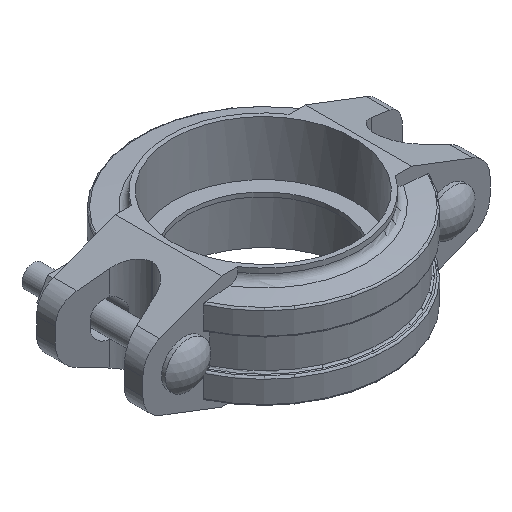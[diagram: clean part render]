
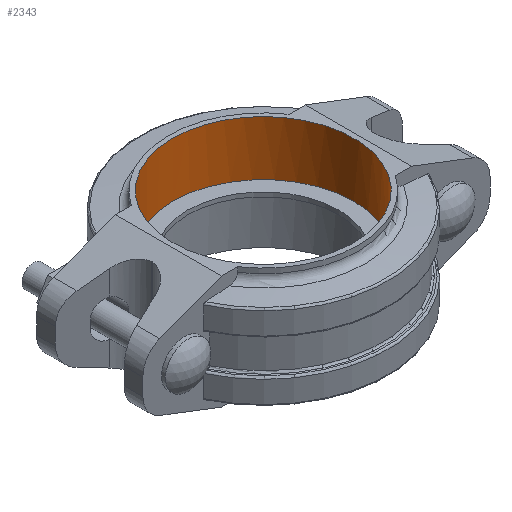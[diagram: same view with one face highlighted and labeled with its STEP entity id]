
A CAD part, isometric view. The second image highlights one B-rep face of the part: STEP entity #2343.
In plain terms, the highlighted cylindrical face has radius 38.1 mm (diameter 76.2 mm), a full revolution.
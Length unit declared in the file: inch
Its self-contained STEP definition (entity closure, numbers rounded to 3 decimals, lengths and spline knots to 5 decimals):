
#212=FACE_OUTER_BOUND('',#331,.T.);
#331=EDGE_LOOP('',(#1502,#1503,#1504,#1505,#1506,#1507));
#458=LINE('',#3413,#641);
#641=VECTOR('',#2744,1.5);
#827=CIRCLE('',#2484,1.5);
#828=CIRCLE('',#2485,1.5);
#829=CIRCLE('',#2487,1.5);
#830=CIRCLE('',#2488,1.5);
#917=VERTEX_POINT('',#3407);
#918=VERTEX_POINT('',#3408);
#919=VERTEX_POINT('',#3412);
#920=VERTEX_POINT('',#3414);
#1152=EDGE_CURVE('',#917,#918,#827,.T.);
#1153=EDGE_CURVE('',#918,#917,#828,.T.);
#1154=EDGE_CURVE('',#918,#919,#458,.T.);
#1155=EDGE_CURVE('',#920,#919,#829,.T.);
#1156=EDGE_CURVE('',#919,#920,#830,.T.);
#1502=ORIENTED_EDGE('',*,*,#1152,.T.);
#1503=ORIENTED_EDGE('',*,*,#1154,.T.);
#1504=ORIENTED_EDGE('',*,*,#1155,.F.);
#1505=ORIENTED_EDGE('',*,*,#1156,.F.);
#1506=ORIENTED_EDGE('',*,*,#1154,.F.);
#1507=ORIENTED_EDGE('',*,*,#1153,.T.);
#2183=CYLINDRICAL_SURFACE('',#2486,1.5);
#2343=ADVANCED_FACE('',(#212),#2183,.F.);
#2484=AXIS2_PLACEMENT_3D('',#3409,#2738,#2739);
#2485=AXIS2_PLACEMENT_3D('',#3410,#2740,#2741);
#2486=AXIS2_PLACEMENT_3D('',#3411,#2742,#2743);
#2487=AXIS2_PLACEMENT_3D('',#3415,#2745,#2746);
#2488=AXIS2_PLACEMENT_3D('',#3416,#2747,#2748);
#2738=DIRECTION('center_axis',(0.,0.,-1.));
#2739=DIRECTION('ref_axis',(0.,-1.,0.));
#2740=DIRECTION('center_axis',(0.,0.,-1.));
#2741=DIRECTION('ref_axis',(0.,-1.,0.));
#2742=DIRECTION('center_axis',(0.,0.,-1.));
#2743=DIRECTION('ref_axis',(0.,-1.,0.));
#2744=DIRECTION('',(0.,0.,1.));
#2745=DIRECTION('center_axis',(0.,0.,-1.));
#2746=DIRECTION('ref_axis',(-1.,0.,0.));
#2747=DIRECTION('center_axis',(0.,0.,-1.));
#2748=DIRECTION('ref_axis',(-1.,0.,0.));
#3407=CARTESIAN_POINT('',(-1.5,0.,0.035));
#3408=CARTESIAN_POINT('',(0.,1.5,0.035));
#3409=CARTESIAN_POINT('Origin',(0.,0.,0.035));
#3410=CARTESIAN_POINT('Origin',(0.,0.,0.035));
#3411=CARTESIAN_POINT('Origin',(0.,0.,0.));
#3412=CARTESIAN_POINT('',(0.,1.5,0.94));
#3413=CARTESIAN_POINT('',(0.,1.5,0.));
#3414=CARTESIAN_POINT('',(1.21474,0.88,0.94));
#3415=CARTESIAN_POINT('Origin',(0.,0.,0.94));
#3416=CARTESIAN_POINT('Origin',(0.,0.,0.94));
